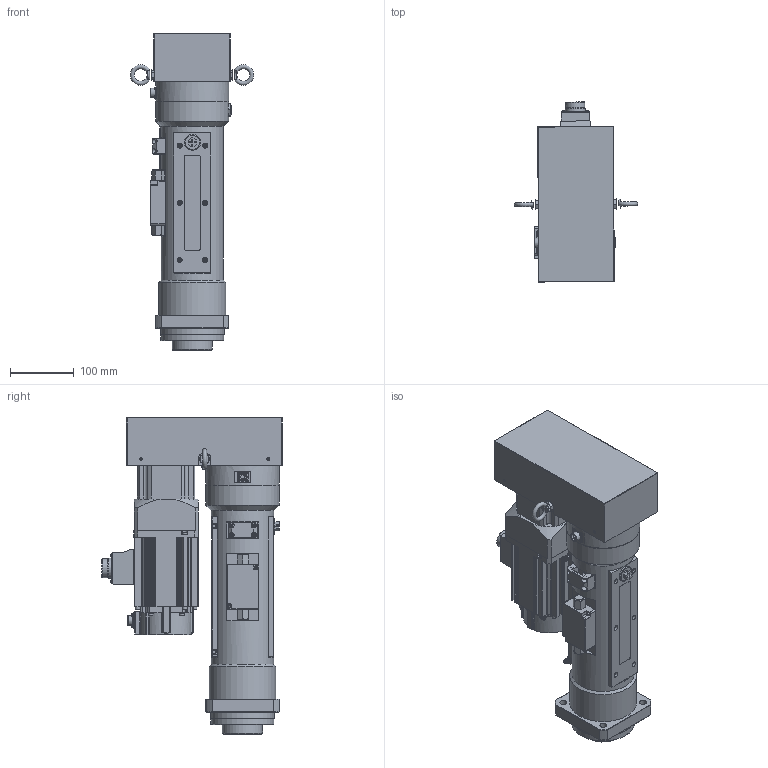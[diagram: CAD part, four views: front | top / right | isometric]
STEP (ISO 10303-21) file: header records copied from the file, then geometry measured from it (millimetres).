
FILE_DESCRIPTION(/* description */ (''),/* implementation_level */ '2;1');
FILE_NAME(/* name */ 'Z:\07.Product\01.Design\3D\1.P-All\OAICS-P\0000.Assembly\OACIS-P010,P015-150-200-A6V200.stp',/* time_stamp */ '2023-09-21T09:01:11+09:00',/* author */ ('magic'),/* organization */ (''),/* preprocessor_version */ 'ST-DEVELOPER v17',/* originating_system */ 'Autodesk Inventor 2019',/* authorisation */ '');
FILE_SCHEMA (('AUTOMOTIVE_DESIGN { 1 0 10303 214 3 1 1 }'));
Products named in the file (1): 303015010001_OACIS-P030-150-200-A6V200_v10.22_Shrinkwrap_1
Bounding box: 193.9 x 283.44 x 498 mm (x, y, z)
Volume: 5588817.2 mm3; surface area: 779707.7 mm2
Topology: 2 solids, 2 shells, 2101 faces, 5616 edges, 3701 vertices
Faces by surface type: plane 958, cylinder 698, cone 222, bspline 108, sphere 60, torus 55
Full cylindrical faces by diameter (mm): 1 x6, 3.242 x33, 4.134 x4, 4.5 x25, 4.917 x19, 5 x2, 5.8 x2, 6.5 x2, 6.6 x10, 6.647 x8, 6.75 x4, 6.8 x1, 7 x12, 7.2 x2, 7.24 x2, 7.8 x2, 8 x37, 8.376 x8, 8.4 x1, 8.7 x1, 9 x12, 9.188 x1, 11 x4, 14 x9, 14.8 x1, 16.376 x1, 18 x1, 22 x1, 25 x1, 25.4 x1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
Entity records: 78589 total; most frequent: CARTESIAN_POINT 23285, DIRECTION 11260, ORIENTED_EDGE 11034, EDGE_CURVE 5517, AXIS2_PLACEMENT_3D 4218, VERTEX_POINT 3701, LINE 2824, VECTOR 2824
